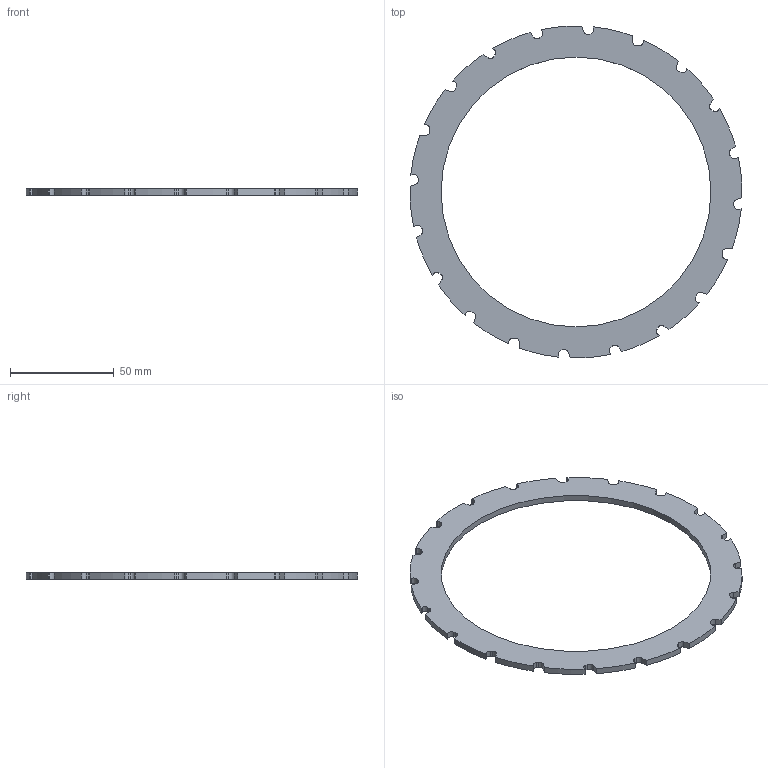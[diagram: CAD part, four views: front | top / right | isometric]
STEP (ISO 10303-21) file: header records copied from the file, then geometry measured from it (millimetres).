
FILE_DESCRIPTION(/* description */ (''),/* implementation_level */ '2;1');
FILE_NAME(/* name */ '/var/folders/_9/13ct5lzd5x98qhw9g85_2_nh0000gn/T/com.autodesk.mas.fusion360/Neutron/c8442eec-4afb-4744-b0c5-1d9fa967ca05.stp',/* time_stamp */ '2019-05-06T23:43:42+02:00',/* author */ ('philip.daigreja@tu-dortmund.de'),/* organization */ (''),/* preprocessor_version */ 'ST-DEVELOPER v18',/* originating_system */ 'Autodesk Translation Framework v8.2.0.1029',/* authorisation */ '');
FILE_SCHEMA (('AUTOMOTIVE_DESIGN { 1 0 10303 214 3 1 1 }'));
Length unit declared in the file: millimetre
Products named in the file (1): Floor_Lamp_fix_ring top
Bounding box: 159.91 x 159.91 x 3 mm (x, y, z)
Volume: 19455 mm3; surface area: 16026.6 mm2
Topology: 1 solids, 1 shells, 123 faces, 363 edges, 242 vertices
Faces by surface type: plane 62, cylinder 61
Full cylindrical faces by diameter (mm): 130 x1
Entity records: 4176 total; most frequent: DIRECTION 733, CARTESIAN_POINT 729, ORIENTED_EDGE 726, EDGE_CURVE 363, AXIS2_PLACEMENT_3D 246, VERTEX_POINT 242, LINE 241, VECTOR 241
